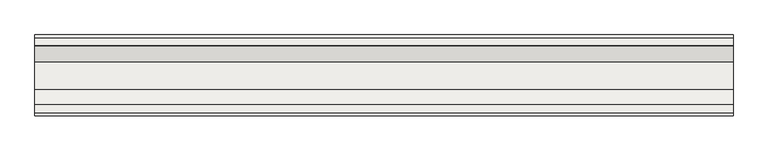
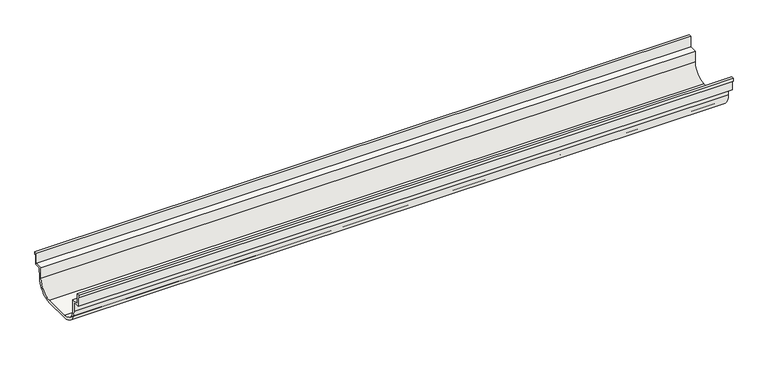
"""IFC4 building model written with IfcOpenShell, lengths in millimetres: slab geometry, ROSA GRES_CRA C1 : Pieza CRA C1."""

import ifcopenshell
import ifcopenshell.guid

model = None  # the IFC model being written
_history = None  # IfcOwnerHistory: only IFC2X3 demands one
_inside = {}  # id of a spatial element -> (the spatial element, [elements in it])
_under = {}  # id of a project, library or spatial element -> (it, [spatial elements below it])
_declared = {}  # id of a project -> (the project, [libraries it declares])
_typed = {}  # id of a type object -> (the type object, [elements of that type])
_made_of = {}  # id of a material, layer set ... -> (it, [elements and type objects made of it])


def new_model(schema):
    """Start an empty IFC model of exactly this schema.

    Asked for "IFC4X3", IfcOpenShell would pick the latest addendum, in which some entities
    have other attributes; the version numbers below select the first issue.
    IFC2X3 requires an IfcOwnerHistory on every rooted entity: one is made here for all.
    """
    global model, _history
    if schema == "IFC4X3":
        model = ifcopenshell.file(schema_version=(4, 3, 0, 0))
    else:
        model = ifcopenshell.file(schema=schema)
    _inside.clear()
    _under.clear()
    _declared.clear()
    _typed.clear()
    _made_of.clear()
    _history = None
    if model.schema == "IFC2X3":
        org = make("IfcOrganization", Name="unknown")
        user = make(
            "IfcPersonAndOrganization",
            ThePerson=make("IfcPerson", FamilyName="unknown"),
            TheOrganization=org,
        )
        app = make(
            "IfcApplication",
            ApplicationDeveloper=org,
            Version="unknown",
            ApplicationFullName="unknown",
            ApplicationIdentifier="unknown",
        )
        _history = make(
            "IfcOwnerHistory",
            OwningUser=user,
            OwningApplication=app,
            ChangeAction="ADDED",
            CreationDate=0,
        )
    return model


def make(cls, **values):
    """One entity of the class cls with the attributes given. An attribute that is None is left unset."""
    return model.create_entity(
        cls, **{name: value for name, value in values.items() if value is not None}
    )


def rooted(cls, **values):
    """An entity with a GlobalId (a new one), such as an element, a storey or a relation."""
    return make(cls, GlobalId=ifcopenshell.guid.new(), OwnerHistory=_history, **values)


def si_unit(unit_type, name, prefix=None):
    """IfcSIUnit, for example si_unit("LENGTHUNIT", "METRE", prefix="MILLI")."""
    return make("IfcSIUnit", UnitType=unit_type, Prefix=prefix, Name=name)


def assignment(units):
    """IfcUnitAssignment: the units of a project."""
    return None if units is None else make("IfcUnitAssignment", Units=units)


def point(xyz):
    """IfcCartesianPoint."""
    return None if xyz is None else make("IfcCartesianPoint", Coordinates=xyz)


def direction(xyz):
    """IfcDirection."""
    return None if xyz is None else make("IfcDirection", DirectionRatios=xyz)


def frame(location, z_axis=None, x_axis=None):
    """IfcAxis2Placement3D, a coordinate frame: its origin and axes. An axis left out is left unset."""
    return make(
        "IfcAxis2Placement3D",
        Location=point(location),
        Axis=direction(z_axis),
        RefDirection=direction(x_axis),
    )


def frame_2d(location, x_axis=None):
    """IfcAxis2Placement2D, a coordinate frame in the plane: its origin and x axis."""
    return make(
        "IfcAxis2Placement2D", Location=point(location), RefDirection=direction(x_axis)
    )


def origin():
    """The frame at (0, 0, 0) with its axes left unset."""
    return frame((0.0, 0.0, 0.0))


def place(relative_to, where):
    """IfcLocalPlacement: puts the frame where relative to a parent placement (None: the world)."""
    return make(
        "IfcLocalPlacement", PlacementRelTo=relative_to, RelativePlacement=where
    )


def context(
    kind, dimensions, precision=None, world=None, true_north=None, identifier=None
):
    """IfcGeometricRepresentationContext, for example the 3D "Model" context."""
    return make(
        "IfcGeometricRepresentationContext",
        ContextIdentifier=identifier,
        ContextType=kind,
        CoordinateSpaceDimension=dimensions,
        Precision=precision,
        WorldCoordinateSystem=world,
        TrueNorth=true_north,
    )


def project(units=None, contexts=None):
    """IfcProject with its units and contexts."""
    return rooted(
        "IfcProject",
        Name="project",
        RepresentationContexts=contexts,
        UnitsInContext=assignment(units),
    )


def spatial(cls, under=None, at=None, **own):
    """A site, building, storey or space (cls), placed at a placement, below another one or the project."""
    s = rooted(cls, ObjectPlacement=at, **own)
    if under is not None:
        _under.setdefault(under.id(), (under, []))[1].append(s)
    return s


def polyline(points):
    """IfcPolyline through the points."""
    return make("IfcPolyline", Points=[point(p) for p in points])


def circle_curve(where, radius):
    """IfcCircle in the frame where."""
    return make("IfcCircle", Position=where, Radius=radius)


def trimmed(basis, trim1, trim2, sense, master):
    """IfcTrimmedCurve: the piece of a basis curve between two trims."""
    return make(
        "IfcTrimmedCurve",
        BasisCurve=basis,
        Trim1=trim1,
        Trim2=trim2,
        SenseAgreement=sense,
        MasterRepresentation=master,
    )


def segment(curve, same_sense, transition):
    """IfcCompositeCurveSegment."""
    return make(
        "IfcCompositeCurveSegment",
        Transition=transition,
        SameSense=same_sense,
        ParentCurve=curve,
    )


def composite_curve(segments, self_intersect=None):
    """IfcCompositeCurve: segments joined end to end."""
    return make("IfcCompositeCurve", Segments=segments, SelfIntersect=self_intersect)


def outline(outer, holes=None, kind="AREA"):
    """IfcArbitraryClosedProfileDef: a profile drawn as a closed curve; with holes, ...WithVoids."""
    if holes is None:
        return make("IfcArbitraryClosedProfileDef", ProfileType=kind, OuterCurve=outer)
    return make(
        "IfcArbitraryProfileDefWithVoids",
        ProfileType=kind,
        OuterCurve=outer,
        InnerCurves=holes,
    )


def extrude(swept, where, along, depth):
    """IfcExtrudedAreaSolid: the profile swept, set in the frame where, extruded along a direction by depth."""
    return make(
        "IfcExtrudedAreaSolid",
        SweptArea=swept,
        Position=where,
        ExtrudedDirection=direction(along),
        Depth=depth,
    )


def shape(context_of_items, identifier, shape_type, items):
    """IfcShapeRepresentation: the items that make up one representation, for example the "Body"."""
    return make(
        "IfcShapeRepresentation",
        ContextOfItems=context_of_items,
        RepresentationIdentifier=identifier,
        RepresentationType=shape_type,
        Items=items,
    )


def source(mapping_origin, context_of_items, identifier, shape_type, items):
    """IfcRepresentationMap: a shape defined once, which mapped items show again and again."""
    return make(
        "IfcRepresentationMap",
        MappingOrigin=mapping_origin,
        MappedRepresentation=shape(context_of_items, identifier, shape_type, items),
    )


def transform(
    local_origin,
    x_axis=None,
    y_axis=None,
    z_axis=None,
    scale=None,
    scale2=None,
    scale3=None,
    uniform=True,
):
    """IfcCartesianTransformationOperator3D, or its non-uniform kind. x_axis, y_axis, z_axis: its Axis1, 2, 3."""
    if uniform:
        return make(
            "IfcCartesianTransformationOperator3D",
            Axis1=direction(x_axis),
            Axis2=direction(y_axis),
            LocalOrigin=point(local_origin),
            Scale=scale,
            Axis3=direction(z_axis),
        )
    return make(
        "IfcCartesianTransformationOperator3DnonUniform",
        Axis1=direction(x_axis),
        Axis2=direction(y_axis),
        LocalOrigin=point(local_origin),
        Scale=scale,
        Axis3=direction(z_axis),
        Scale2=scale2,
        Scale3=scale3,
    )


def mapped(mapping_source, mapping_target):
    """IfcMappedItem: shows the shape of a source again, moved by a transform."""
    return make(
        "IfcMappedItem", MappingSource=mapping_source, MappingTarget=mapping_target
    )


def made_of(thing, what):
    """Note that an element or type object is made of a material, layer set ...; save() writes the relation."""
    if what is not None:
        _made_of.setdefault(what.id(), (what, []))[1].append(thing)
    return thing


def element(
    cls,
    number,
    at=None,
    inside=None,
    cuts=None,
    type_object=None,
    material=None,
    context=None,
    identifier="Body",
    shape_type=None,
    held_by="IfcProductDefinitionShape",
    body=None,
    shapes=None,
    **own,
):
    """One element of the class cls, such as IfcWall. Its Tag is "e" and its number.

    at: its placement. inside: the storey or other place that contains it. cuts: it is an
    opening in that element (IfcRelVoidsElement). A single representation is given by context,
    identifier, shape_type and body (its items); several are given by shapes. held_by: the class
    of the entity that holds the representations. save() writes the other relations.
    """
    e = rooted(cls, Tag="e%d" % number, ObjectPlacement=at, **own)
    if body is not None:
        shapes = [shape(context, identifier, shape_type, body)]
    if shapes is not None:
        e.Representation = make(held_by, Representations=shapes)
    if inside is not None:
        _inside.setdefault(inside.id(), (inside, []))[1].append(e)
    if cuts is not None:
        rooted(
            "IfcRelVoidsElement", RelatingBuildingElement=cuts, RelatedOpeningElement=e
        )
    if type_object is not None:
        _typed.setdefault(type_object.id(), (type_object, []))[1].append(e)
    return made_of(e, material)


def aggregate(whole, parts):
    """IfcRelAggregates: a whole, such as a stair, and the parts it consists of."""
    return rooted("IfcRelAggregates", RelatingObject=whole, RelatedObjects=parts)


def save(model, path):
    """Write the relations noted so far, then the file.

    IfcRelAggregates (storeys below a building ...), IfcRelContainedInSpatialStructure (elements
    in a storey), IfcRelDefinesByType, IfcRelAssociatesMaterial and IfcRelDeclares: one each for
    every whole, place, type object, material and project.
    """
    for whole, parts in _under.values():
        aggregate(whole, parts)
    for where, things in _inside.values():
        rooted(
            "IfcRelContainedInSpatialStructure",
            RelatedElements=things,
            RelatingStructure=where,
        )
    for kind, things in _typed.values():
        rooted("IfcRelDefinesByType", RelatedObjects=things, RelatingType=kind)
    for what, things in _made_of.values():
        rooted("IfcRelAssociatesMaterial", RelatedObjects=things, RelatingMaterial=what)
    for by, libraries in _declared.values():
        rooted("IfcRelDeclares", RelatingContext=by, RelatedDefinitions=libraries)
    model.write(path)


def slab_0f36bf91(model_context):
    return source(origin(), model_context, "Body", "SweptSolid", [
        extrude(outline(composite_curve([segment(polyline([(0.0, -5.0), (0.0, 0.0), (5.0, 0.0), (5.0, -20.0), (19.0, -20.0), (19.3573264, -40.471215)]), True, "CONTINUOUS"), segment(trimmed(circle_curve(frame_2d((46.3532142, -40.0)), 27.0), [point((19.3573264, -40.471215))], [point((46.3532142, -67.0))], True, "CARTESIAN"), True, "CONTINUOUS"), segment(polyline([(46.3532142, -67.0), (93.6467858, -67.0)]), True, "CONTINUOUS"), segment(trimmed(circle_curve(frame_2d((93.6467858, -40.0)), 27.0), [point((93.6467858, -67.0))], [point((120.6426736, -40.471215))], True, "CARTESIAN"), True, "CONTINUOUS"), segment(polyline([(120.6426736, -40.471215), (121.0, -20.0), (135.0, -20.0), (135.0, 0.0), (140.0, 0.0), (140.0, -5.0), (137.6, -5.0), (137.6, -23.0), (125.4983279, -23.0), (125.1919806, -40.5506234)]), True, "CONTINUOUS"), segment(trimmed(circle_curve(frame_2d((93.6467858, -40.0)), 31.55), [point((125.1919806, -40.5506234))], [point((93.6467858, -71.55))], False, "CARTESIAN"), True, "CONTINUOUS"), segment(polyline([(93.6467858, -71.55), (46.3532142, -71.55)]), True, "CONTINUOUS"), segment(trimmed(circle_curve(frame_2d((46.3532142, -40.0)), 31.55), [point((46.3532142, -71.55))], [point((14.8080194, -40.5506234))], False, "CARTESIAN"), True, "CONTINUOUS"), segment(polyline([(14.8080194, -40.5506234), (14.5016721, -23.0), (2.4, -23.0), (2.4, -5.0), (0.0, -5.0)]), True, "CONTINUOUS")], self_intersect=False)), frame((0.0, 0.0, 0.0), z_axis=(1.0, 0.0, 0.0), x_axis=(0.0, 1.0, 0.0)), (0.0, 0.0, 1.0), 1206.0000076),
    ])


if __name__ == "__main__":
    model = new_model("IFC4")
    model_context = context("Model", 3, world=origin())
    ifc_project = project(units=[si_unit("LENGTHUNIT", "METRE", prefix="MILLI")], contexts=[model_context])
    site = spatial("IfcSite", under=ifc_project)
    building = spatial("IfcBuilding", under=site)
    placement = place(None, origin())
    slab_shape = slab_0f36bf91(model_context)
    element("IfcSlab", 1, ObjectType="ROSA GRES_CRA C1 : Pieza CRA C1", at=placement, inside=building, context=model_context, shape_type="MappedRepresentation", body=[
        mapped(slab_shape, transform((0.0, 0.0, 0.0), x_axis=(1.0, 0.0, 0.0), y_axis=(0.0, 1.0, 0.0), z_axis=(0.0, 0.0, 1.0))),
    ])
    save(model, "model.ifc")
